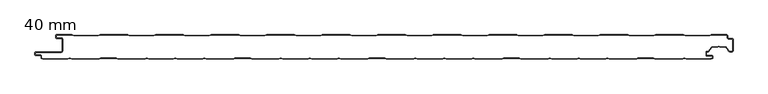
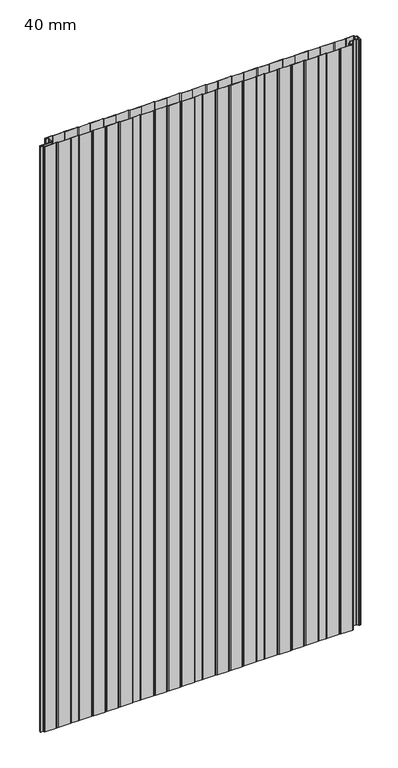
"""IFC4 building model written with IfcOpenShell, lengths in millimetres: plate geometry, HIANSA PANEL - H20.F02.002-PANELES DE FACHADA VERTICAL - PANEL PERFILADO - Panel de Muro Cortina : 40 mm."""

from ifc_helpers import new_model, si_unit, point, frame_2d, origin, origin_with_axes, place, context, project, spatial, polyline, circle_curve, trimmed, segment, composite_curve, outline, extrude, source, transform, mapped, element, save


def plate_40_mm_b86c170f(model_context):
    return source(origin(), model_context, "Body", "SweptSolid", [
        extrude(outline(polyline([(573.0810465, -23.7821941), (573.0810465, -12.9009472), (573.5810465, -13.7002592), (573.5810465, -23.010534), (573.0810465, -23.7821941)])), origin_with_axes(), (0.0, 0.0, 1.0), 2200.0),
        extrude(outline(polyline([(-524.3789535, -12.9205789), (-524.3789535, -23.8267994), (-524.8789535, -23.010534), (-524.8789535, -13.7002592), (-524.3789535, -12.9205789)])), origin_with_axes(), (0.0, 0.0, 1.0), 2200.0),
        extrude(outline(composite_curve([segment(polyline([(-506.0322682, -0.9999995), (-466.0322682, -0.9999995), (-463.0322682, 5e-07), (-418.0322682, 5e-07), (-415.0322682, -0.9999995), (-375.0322682, -0.9999995), (-372.0322682, 5e-07), (-327.0322682, 5e-07), (-324.0322682, -0.9999995), (-284.0322682, -0.9999995), (-281.0322682, 5e-07), (-236.0322682, 5e-07), (-233.0322682, -0.9999995), (-193.0322682, -0.9999995), (-190.0322682, 5e-07), (-145.0322682, 5e-07), (-142.0322682, -0.9999995), (-102.0322682, -0.9999995), (-99.0322682, 5e-07), (-54.0322682, 5e-07), (-51.0322682, -0.9999995), (-11.0322682, -0.9999995), (-8.0322682, 5e-07), (36.9677318, 5e-07), (39.9677318, -0.9999995), (79.9677318, -0.9999995), (82.9677318, 5e-07), (127.9677318, 5e-07), (130.9677318, -0.9999995), (170.9677318, -0.9999995), (173.9677318, 5e-07), (218.9677318, 5e-07), (221.9677318, -0.9999995), (261.9677318, -0.9999995), (264.9677318, 5e-07), (309.9677318, 5e-07), (312.9677318, -0.9999995), (352.9677318, -0.9999995), (355.9677318, 5e-07), (400.9677318, 5e-07), (403.9677318, -0.9999995), (443.9677318, -0.9999995), (446.9677318, 5e-07), (491.9677318, 5e-07), (494.9677318, -0.9999995), (534.9677318, -0.9999995), (537.9677318, 5e-07), (562.9277318, 5e-07)]), True, "CONTINUOUS"), segment(trimmed(circle_curve(frame_2d((562.9277318, -1.4999995)), 1.5), [point((562.9277318, 5e-07))], [point((564.4277318, -1.5000018))], False, "CARTESIAN"), True, "CONTINUOUS"), segment(polyline([(564.4277318, -1.5000018), (564.4277269, -4.746003)]), True, "CONTINUOUS"), segment(trimmed(circle_curve(frame_2d((565.9317269, -4.7460053)), 1.504), [point((564.4277269, -4.746003))], [point((565.9317269, -6.2500053))], True, "CARTESIAN"), True, "CONTINUOUS"), segment(polyline([(565.9317269, -6.2500053), (572.0810464, -6.2500053)]), True, "CONTINUOUS"), segment(trimmed(circle_curve(frame_2d((572.0810464, -7.7500053)), 1.5), [point((572.0810464, -6.2500053))], [point((573.5810464, -7.7500053))], False, "CARTESIAN"), True, "CONTINUOUS"), segment(polyline([(573.5810464, -7.7500053), (573.5810464, -13.7002592), (573.0810464, -12.9009472), (573.0810464, -7.7499995)]), True, "CONTINUOUS"), segment(trimmed(circle_curve(frame_2d((572.0810464, -7.7499995)), 1.0), [point((573.0810464, -7.7499995))], [point((572.0810464, -6.7499995))], True, "CARTESIAN"), True, "CONTINUOUS"), segment(polyline([(572.0810464, -6.7499995), (565.9317318, -6.7499995)]), True, "CONTINUOUS"), segment(trimmed(circle_curve(frame_2d((565.9317318, -4.7459995)), 2.004), [point((565.9317318, -6.7499995))], [point((563.9277318, -4.7459995))], False, "CARTESIAN"), True, "CONTINUOUS"), segment(polyline([(563.9277318, -4.7459995), (563.9277318, -1.4999995)]), True, "CONTINUOUS"), segment(trimmed(circle_curve(frame_2d((562.9277318, -1.4999995)), 1.0), [point((563.9277318, -1.4999995))], [point((562.9277318, -0.4999995))], True, "CARTESIAN"), True, "CONTINUOUS"), segment(polyline([(562.9277318, -0.4999995), (538.0488706, -0.4999995), (535.0488706, -1.4999995), (494.8865929, -1.4999995), (491.8865929, -0.4999995), (447.0488706, -0.4999995), (444.0488706, -1.4999995), (403.8865929, -1.4999995), (400.8865929, -0.4999995), (356.0488706, -0.4999995), (353.0488706, -1.4999995), (312.8865929, -1.4999995), (309.8865929, -0.4999995), (265.0488706, -0.4999995), (262.0488706, -1.4999995), (221.8865929, -1.4999995), (218.8865929, -0.4999995), (174.0488706, -0.4999995), (171.0488706, -1.4999995), (130.8865929, -1.4999995), (127.8865929, -0.4999995), (83.0488706, -0.4999995), (80.0488706, -1.4999995), (39.8865929, -1.4999995), (36.8865929, -0.4999995), (-7.9511294, -0.4999995), (-10.9511294, -1.4999995), (-51.1134071, -1.4999995), (-54.1134071, -0.4999995), (-98.9511294, -0.4999995), (-101.9511294, -1.4999995), (-142.1134071, -1.4999995), (-145.1134071, -0.4999995), (-189.9511294, -0.4999995), (-192.9511294, -1.4999995), (-233.1134071, -1.4999995), (-236.1134071, -0.4999995), (-280.9511294, -0.4999995), (-283.9511294, -1.4999995), (-324.1134071, -1.4999995), (-327.1134071, -0.4999995), (-371.9511294, -0.4999995), (-374.9511294, -1.4999995), (-415.1134071, -1.4999995), (-418.1134071, -0.4999995), (-462.9511294, -0.4999995), (-465.9511294, -1.4999995), (-506.1134071, -1.4999995), (-509.1134071, -0.4999995), (-534.0322682, -0.4999995)]), True, "CONTINUOUS"), segment(trimmed(circle_curve(frame_2d((-534.0322682, -1.4999995)), 1.0), [point((-534.0322682, -0.4999995))], [point((-535.0322682, -1.4999976))], True, "CARTESIAN"), True, "CONTINUOUS"), segment(polyline([(-535.0322682, -1.4999976), (-535.0322739, -4.4999976)]), True, "CONTINUOUS"), segment(trimmed(circle_curve(frame_2d((-534.0322682, -4.4999995)), 1.0000057), [point((-535.0322739, -4.4999976))], [point((-534.0322682, -5.5000053))], True, "CARTESIAN"), True, "CONTINUOUS"), segment(polyline([(-534.0322682, -5.5000053), (-526.4189536, -5.5000053)]), True, "CONTINUOUS"), segment(trimmed(circle_curve(frame_2d((-526.4189536, -7.5400053)), 2.04), [point((-526.4189536, -5.5000053))], [point((-524.3789536, -7.5400053))], False, "CARTESIAN"), True, "CONTINUOUS"), segment(polyline([(-524.3789536, -7.5400053), (-524.3789536, -12.9205789), (-524.8789536, -13.7002592), (-524.8789536, -7.5399995)]), True, "CONTINUOUS"), segment(trimmed(circle_curve(frame_2d((-526.4189536, -7.5399995)), 1.54), [point((-524.8789536, -7.5399995))], [point((-526.4189536, -5.9999995))], True, "CARTESIAN"), True, "CONTINUOUS"), segment(polyline([(-526.4189536, -5.9999995), (-534.0322682, -5.9999995)]), True, "CONTINUOUS"), segment(trimmed(circle_curve(frame_2d((-534.0322682, -4.4999995)), 1.5), [point((-534.0322682, -5.9999995))], [point((-535.5322682, -4.4999995))], False, "CARTESIAN"), True, "CONTINUOUS"), segment(polyline([(-535.5322682, -4.4999995), (-535.5322682, -1.4999995)]), True, "CONTINUOUS"), segment(trimmed(circle_curve(frame_2d((-534.0322682, -1.4999995)), 1.5), [point((-535.5322682, -1.4999995))], [point((-534.0322682, 5e-07))], False, "CARTESIAN"), True, "CONTINUOUS"), segment(polyline([(-534.0322682, 5e-07), (-509.0322682, 5e-07), (-506.0322682, -0.9999995)]), True, "CONTINUOUS")], self_intersect=False)), origin_with_axes(), (0.0, 0.0, 1.0), 2200.0),
        extrude(outline(composite_curve([segment(polyline([(-526.9188291, -28.8776596), (-569.2000002, -28.8776596), (-569.2000002, -33.6276596), (-560.5344902, -33.6276596)]), True, "CONTINUOUS"), segment(trimmed(circle_curve(frame_2d((-560.5344902, -35.1276596)), 1.5), [point((-560.5344902, -33.6276596))], [point((-559.0344902, -35.1276596))], False, "CARTESIAN"), True, "CONTINUOUS"), segment(polyline([(-559.0344902, -35.1276596), (-559.0344902, -37.5178943)]), True, "CONTINUOUS"), segment(trimmed(circle_curve(frame_2d((-557.6355327, -37.5178943)), 1.3989577), [point((-559.0344902, -37.5178943))], [point((-557.9748298, -38.8750826))], True, "CARTESIAN"), True, "CONTINUOUS"), segment(polyline([(-557.9748298, -38.8750826), (-555.4751594, -39.5), (-516.3760428, -39.5), (-512.31449, -38.4846118), (-508.2529372, -39.5), (-465.1734067, -39.5), (-462.1734067, -38.5), (-436.899129, -38.5), (-433.899129, -39.5), (-390.8195984, -39.5), (-386.7580456, -38.4846118), (-382.6964928, -39.5), (-343.5973762, -39.5), (-339.5358234, -38.4846118), (-335.4742706, -39.5), (-296.375154, -39.5), (-292.3136012, -38.4846118), (-288.2520484, -39.5), (-245.1725179, -39.5), (-242.1725179, -38.5), (-216.8982402, -38.5), (-213.8982402, -39.5), (-170.8187096, -39.5), (-166.7571568, -38.4846118), (-162.695604, -39.5), (-123.5964874, -39.5), (-119.5349346, -38.4846118), (-115.4733818, -39.5), (-76.3742652, -39.5), (-72.3127124, -38.4846118), (-68.2511596, -39.5), (-25.1716291, -39.5), (-22.1716291, -38.5), (3.1026486, -38.5), (6.1026486, -39.5), (49.1821792, -39.5), (53.243732, -38.4846118), (57.3052848, -39.5), (96.4044014, -39.5), (100.4659542, -38.4846118), (104.527507, -39.5), (143.6266236, -39.5), (147.6881764, -38.4846118), (151.7497292, -39.5), (194.8292597, -39.5), (197.8292597, -38.5), (223.1035374, -38.5), (226.1035374, -39.5), (269.183068, -39.5), (273.2446208, -38.4846118), (277.3061736, -39.5), (316.4052902, -39.5), (320.466843, -38.4846118), (324.5283958, -39.5), (363.6275124, -39.5), (367.6890652, -38.4846118), (371.750618, -39.5), (414.8301485, -39.5), (417.8301485, -38.5), (443.1044262, -38.5), (446.1044262, -39.5), (489.1839568, -39.5), (493.2455096, -38.4846118), (497.3070624, -39.5), (536.406179, -39.5), (538.9050596, -38.8752798)]), True, "CONTINUOUS"), segment(trimmed(circle_curve(frame_2d((538.5655098, -37.5170803)), 1.4), [point((538.9050596, -38.8752798))], [point((539.9655098, -37.5170803))], True, "CARTESIAN"), True, "CONTINUOUS"), segment(polyline([(539.9655098, -37.5170803), (539.9655098, -34.8776596), (530.7999998, -34.8776596)]), True, "CONTINUOUS"), segment(trimmed(circle_curve(frame_2d((530.7999998, -33.3776596)), 1.5), [point((530.7999998, -34.8776596))], [point((529.2999998, -33.3776596))], False, "CARTESIAN"), True, "CONTINUOUS"), segment(polyline([(529.2999998, -33.3776596), (529.2999998, -29.1276596)]), True, "CONTINUOUS"), segment(trimmed(circle_curve(frame_2d((530.7999998, -29.1276596)), 1.5), [point((529.2999998, -29.1276596))], [point((530.7999998, -27.6276596))], False, "CARTESIAN"), True, "CONTINUOUS"), segment(polyline([(530.7999998, -27.6276596), (532.401303, -27.6276596)]), True, "CONTINUOUS"), segment(trimmed(circle_curve(frame_2d((532.401303, -26.1276596)), 1.5), [point((532.401303, -27.6276596))], [point((533.630031, -26.9880243))], True, "CARTESIAN"), True, "CONTINUOUS"), segment(polyline([(533.630031, -26.9880243), (537.8715505, -20.9305067)]), True, "CONTINUOUS"), segment(trimmed(circle_curve(frame_2d((539.5098546, -22.0776596)), 2.0), [point((537.8715505, -20.9305067))], [point((539.5098546, -20.0776596))], False, "CARTESIAN"), True, "CONTINUOUS"), segment(polyline([(539.5098546, -20.0776596), (548.6071795, -20.0776596), (549.7999998, -19.3889845)]), True, "CONTINUOUS"), segment(trimmed(circle_curve(frame_2d((550.2999998, -20.2550099)), 1.0), [point((549.7999998, -19.3889845))], [point((550.7999998, -19.3889845))], False, "CARTESIAN"), True, "CONTINUOUS"), segment(polyline([(550.7999998, -19.3889845), (551.9928202, -20.0776596), (561.0901451, -20.0776596)]), True, "CONTINUOUS"), segment(trimmed(circle_curve(frame_2d((561.0901451, -22.0776596)), 2.0), [point((561.0901451, -20.0776596))], [point((562.7284492, -20.9305067))], False, "CARTESIAN"), True, "CONTINUOUS"), segment(polyline([(562.7284492, -20.9305067), (566.9699686, -26.9880243)]), True, "CONTINUOUS"), segment(trimmed(circle_curve(frame_2d((568.1986967, -26.1276596)), 1.5), [point((566.9699686, -26.9880243))], [point((568.1986967, -27.6276596))], True, "CARTESIAN"), True, "CONTINUOUS"), segment(polyline([(568.1986967, -27.6276596), (571.5810464, -27.6276596)]), True, "CONTINUOUS"), segment(trimmed(circle_curve(frame_2d((571.5810464, -26.1276596)), 1.5), [point((571.5810464, -27.6276596))], [point((573.0810464, -26.1276596))], True, "CARTESIAN"), True, "CONTINUOUS"), segment(polyline([(573.0810464, -26.1276596), (573.0810464, -23.7821941), (573.5810464, -23.010534), (573.5810464, -26.1276596)]), True, "CONTINUOUS"), segment(trimmed(circle_curve(frame_2d((571.5810464, -26.1276596)), 2.0), [point((573.5810464, -26.1276596))], [point((571.5810464, -28.1276596))], False, "CARTESIAN"), True, "CONTINUOUS"), segment(polyline([(571.5810464, -28.1276596), (568.1986967, -28.1276596)]), True, "CONTINUOUS"), segment(trimmed(circle_curve(frame_2d((568.1986967, -26.1276596)), 2.0), [point((568.1986967, -28.1276596))], [point((566.5603926, -27.2748125))], False, "CARTESIAN"), True, "CONTINUOUS"), segment(polyline([(566.5603926, -27.2748125), (562.3188732, -21.2172949)]), True, "CONTINUOUS"), segment(trimmed(circle_curve(frame_2d((561.0901451, -22.0776596)), 1.5), [point((562.3188732, -21.2172949))], [point((561.0901451, -20.5776596))], True, "CARTESIAN"), True, "CONTINUOUS"), segment(polyline([(561.0901451, -20.5776596), (551.8588456, -20.5776596), (550.2999998, -19.6776596), (548.7411541, -20.5776596), (539.5098546, -20.5776596)]), True, "CONTINUOUS"), segment(trimmed(circle_curve(frame_2d((539.5098546, -22.0776596)), 1.5), [point((539.5098546, -20.5776596))], [point((538.2811265, -21.2172949))], True, "CARTESIAN"), True, "CONTINUOUS"), segment(polyline([(538.2811265, -21.2172949), (534.0396071, -27.2748125)]), True, "CONTINUOUS"), segment(trimmed(circle_curve(frame_2d((532.401303, -26.1276596)), 2.0), [point((534.0396071, -27.2748125))], [point((532.401303, -28.1276596))], False, "CARTESIAN"), True, "CONTINUOUS"), segment(polyline([(532.401303, -28.1276596), (530.7999998, -28.1276596)]), True, "CONTINUOUS"), segment(trimmed(circle_curve(frame_2d((530.7999998, -29.1276596)), 1.0), [point((530.7999998, -28.1276596))], [point((529.7999998, -29.1276596))], True, "CARTESIAN"), True, "CONTINUOUS"), segment(polyline([(529.7999998, -29.1276596), (529.7999998, -33.3776596)]), True, "CONTINUOUS"), segment(trimmed(circle_curve(frame_2d((530.7999998, -33.3776596)), 1.0), [point((529.7999998, -33.3776596))], [point((530.7999998, -34.3776596))], True, "CARTESIAN"), True, "CONTINUOUS"), segment(polyline([(530.7999998, -34.3776596), (539.4655098, -34.3776596)]), True, "CONTINUOUS"), segment(trimmed(circle_curve(frame_2d((539.4655098, -35.3776596)), 1.0), [point((539.4655098, -34.3776596))], [point((540.4655098, -35.3776596))], False, "CARTESIAN"), True, "CONTINUOUS"), segment(polyline([(540.4655098, -35.3776596), (540.4655098, -37.5170803)]), True, "CONTINUOUS"), segment(trimmed(circle_curve(frame_2d((538.5655098, -37.5170803)), 1.9), [point((540.4655098, -37.5170803))], [point((539.0263275, -39.3603511))], False, "CARTESIAN"), True, "CONTINUOUS"), segment(polyline([(539.0263275, -39.3603511), (536.4677318, -40.0), (497.2455096, -40.0), (493.2455096, -39.0), (489.2455096, -40.0), (446.0232874, -40.0), (443.0232874, -39.0), (417.9112874, -39.0), (414.9112874, -40.0), (371.6890652, -40.0), (367.6890652, -39.0), (363.6890652, -40.0), (324.466843, -40.0), (320.466843, -39.0), (316.466843, -40.0), (277.2446208, -40.0), (273.2446208, -39.0), (269.2446208, -40.0), (226.0223986, -40.0), (223.0223986, -39.0), (197.9103986, -39.0), (194.9103986, -40.0), (151.6881764, -40.0), (147.6881764, -39.0), (143.6881764, -40.0), (104.4659542, -40.0), (100.4659542, -39.0), (96.4659542, -40.0), (57.243732, -40.0), (53.243732, -39.0), (49.243732, -40.0), (6.0215098, -40.0), (3.0215098, -39.0), (-22.0904902, -39.0), (-25.0904902, -40.0), (-68.3127124, -40.0), (-72.3127124, -39.0), (-76.3127124, -40.0), (-115.5349346, -40.0), (-119.5349346, -39.0), (-123.5349346, -40.0), (-162.7571568, -40.0), (-166.7571568, -39.0), (-170.7571568, -40.0), (-213.979379, -40.0), (-216.979379, -39.0), (-242.091379, -39.0), (-245.091379, -40.0), (-288.3136012, -40.0), (-292.3136012, -39.0), (-296.3136012, -40.0), (-335.5358234, -40.0), (-339.5358234, -39.0), (-343.5358234, -40.0), (-382.7580456, -40.0), (-386.7580456, -39.0), (-390.7580456, -40.0), (-433.9802678, -40.0), (-436.9802678, -39.0), (-462.0922678, -39.0), (-465.0922678, -40.0), (-508.31449, -40.0), (-512.31449, -39.0), (-516.31449, -40.0), (-555.5367122, -40.0), (-558.0951211, -39.3603978)]), True, "CONTINUOUS"), segment(trimmed(circle_curve(frame_2d((-557.6342435, -37.5168877)), 1.9002467), [point((-558.0951211, -39.3603978))], [point((-559.5344902, -37.5168877))], False, "CARTESIAN"), True, "CONTINUOUS"), segment(polyline([(-559.5344902, -37.5168877), (-559.5344902, -35.1276596)]), True, "CONTINUOUS"), segment(trimmed(circle_curve(frame_2d((-560.5344902, -35.1276596)), 1.0), [point((-559.5344902, -35.1276596))], [point((-560.5344902, -34.1276596))], True, "CARTESIAN"), True, "CONTINUOUS"), segment(polyline([(-560.5344902, -34.1276596), (-568.7000002, -34.1276596)]), True, "CONTINUOUS"), segment(trimmed(circle_curve(frame_2d((-568.7000002, -33.1276596)), 1.0), [point((-568.7000002, -34.1276596))], [point((-569.7000002, -33.1276596))], False, "CARTESIAN"), True, "CONTINUOUS"), segment(polyline([(-569.7000002, -33.1276596), (-569.7000002, -29.3776596)]), True, "CONTINUOUS"), segment(trimmed(circle_curve(frame_2d((-568.7000002, -29.3776596)), 1.0), [point((-569.7000002, -29.3776596))], [point((-568.7000002, -28.3776596))], False, "CARTESIAN"), True, "CONTINUOUS"), segment(polyline([(-568.7000002, -28.3776596), (-526.9188291, -28.3776596)]), True, "CONTINUOUS"), segment(trimmed(circle_curve(frame_2d((-526.9188291, -26.3376596)), 2.04), [point((-526.9188291, -28.3776596))], [point((-524.8788291, -26.3375833))], True, "CARTESIAN"), True, "CONTINUOUS"), segment(polyline([(-524.8788291, -26.3375833), (-524.8789536, -23.010534), (-524.3788291, -23.8270027), (-524.3788291, -26.3376596)]), True, "CONTINUOUS"), segment(trimmed(circle_curve(frame_2d((-526.9188291, -26.3376596)), 2.54), [point((-524.3788291, -26.3376596))], [point((-526.9188291, -28.8776596))], False, "CARTESIAN"), True, "CONTINUOUS")], self_intersect=False)), origin_with_axes(), (0.0, 0.0, 1.0), 2200.0),
    ])


if __name__ == "__main__":
    model = new_model("IFC4")
    model_context = context("Model", 3, world=origin())
    ifc_project = project(units=[si_unit("LENGTHUNIT", "METRE", prefix="MILLI")], contexts=[model_context])
    site = spatial("IfcSite", under=ifc_project)
    building = spatial("IfcBuilding", under=site)
    placement = place(None, origin())
    plate_40_mm_shape = plate_40_mm_b86c170f(model_context)
    element("IfcPlate", 1, ObjectType="HIANSA PANEL - H20.F02.002-PANELES DE FACHADA VERTICAL - PANEL PERFILADO - Panel de Muro Cortina : 40 mm", at=placement, inside=building, context=model_context, shape_type="MappedRepresentation", body=[
        mapped(plate_40_mm_shape, transform((0.0, 0.0, 0.0), x_axis=(1.0, 0.0, 0.0), y_axis=(0.0, 1.0, 0.0), z_axis=(0.0, 0.0, 1.0))),
    ])
    save(model, "model.ifc")
